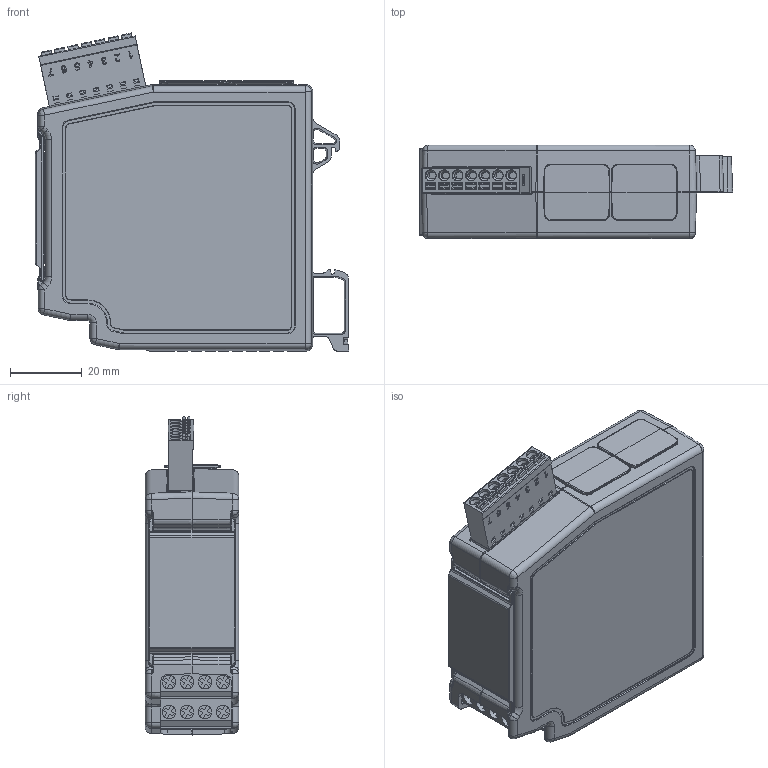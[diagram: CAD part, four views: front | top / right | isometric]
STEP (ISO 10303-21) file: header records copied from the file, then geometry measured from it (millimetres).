
FILE_DESCRIPTION(/* description */ ('Unknown'),/* implementation_level */ '2;1');
FILE_NAME(/* name */ 'DEEneo',/* time_stamp */ '2025-01-03T12:20:26+01:00',/* author */ ('Unknown'),/* organization */ ('Unknown'),/* preprocessor_version */ 'ST-DEVELOPER v19.4',/* originating_system */ 'Solid Edge',/* authorisation */ 'Unknown');
FILE_SCHEMA (('AUTOMOTIVE_DESIGN {1 0 10303 214 3 1 1}'));
Products named in the file (1): DEEneo
Bounding box: 87.13 x 26 x 88.43 mm (x, y, z)
Surface area: 46816.2 mm2 (no closed solid volume)
Topology: 0 solids, 38 shells, 1886 faces, 6077 edges, 4181 vertices
Faces by surface type: plane 1106, cylinder 439, bspline 141, cone 88, torus 80, sphere 32
Full cylindrical faces by diameter (mm): 0.8 x4, 0.99 x1, 1.4 x1, 2.374 x2, 3.1 x7, 3.25 x1, 3.8 x8
Entity records: 75607 total; most frequent: CARTESIAN_POINT 18957, DIRECTION 10563, ORIENTED_EDGE 10183, EDGE_CURVE 5999, LINE 4209, VECTOR 4209, VERTEX_POINT 4167, AXIS2_PLACEMENT_3D 3177
